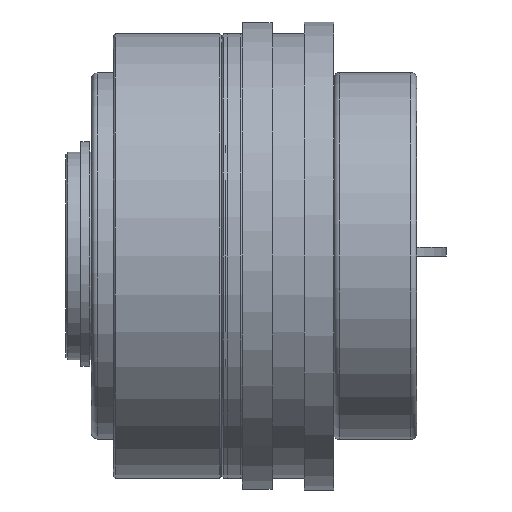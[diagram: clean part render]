
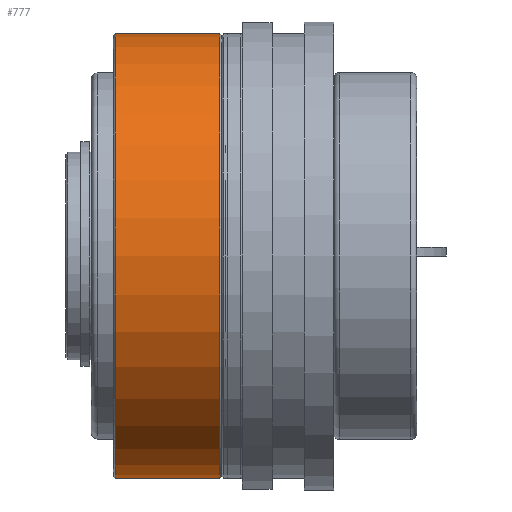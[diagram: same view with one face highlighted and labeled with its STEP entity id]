
A CAD part, front view. The second image highlights one B-rep face of the part: STEP entity #777.
In plain terms, the highlighted cylindrical face has radius 37.5 mm (diameter 75 mm), a full revolution.
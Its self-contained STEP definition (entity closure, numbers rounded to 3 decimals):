
#777 = ADVANCED_FACE( '', ( #1304, #1305 ), #1306, .T. );
#1304 = FACE_OUTER_BOUND( '', #1760, .T. );
#1305 = FACE_OUTER_BOUND( '', #1761, .T. );
#1306 = CYLINDRICAL_SURFACE( '', #1762, 37.5 );
#1760 = EDGE_LOOP( '', ( #2608 ) );
#1761 = EDGE_LOOP( '', ( #2609 ) );
#1762 = AXIS2_PLACEMENT_3D( '', #2610, #2611, #2612 );
#2608 = ORIENTED_EDGE( '', *, *, #3115, .T. );
#2609 = ORIENTED_EDGE( '', *, *, #3116, .T. );
#2610 = CARTESIAN_POINT( '', ( 57., 0., 0. ) );
#2611 = DIRECTION( '', ( -1., 0., 0. ) );
#2612 = DIRECTION( '', ( 0., 0., 1. ) );
#3115 = EDGE_CURVE( '', #3585, #3585, #3586, .T. );
#3116 = EDGE_CURVE( '', #3587, #3587, #3588, .T. );
#3585 = VERTEX_POINT( '', #4391 );
#3586 = CIRCLE( '', #4392, 37.5 );
#3587 = VERTEX_POINT( '', #4393 );
#3588 = CIRCLE( '', #4394, 37.5 );
#4391 = CARTESIAN_POINT( '', ( -0.3, 0., 37.5 ) );
#4392 = AXIS2_PLACEMENT_3D( '', #4929, #4930, #4931 );
#4393 = CARTESIAN_POINT( '', ( -18., 0., -37.5 ) );
#4394 = AXIS2_PLACEMENT_3D( '', #4932, #4933, #4934 );
#4929 = CARTESIAN_POINT( '', ( -0.3, 0., 0. ) );
#4930 = DIRECTION( '', ( -1., 0., 0. ) );
#4931 = DIRECTION( '', ( 0., 0., 1. ) );
#4932 = CARTESIAN_POINT( '', ( -18., 0., 0. ) );
#4933 = DIRECTION( '', ( 1., 0., 0. ) );
#4934 = DIRECTION( '', ( 0., 0., -1. ) );
